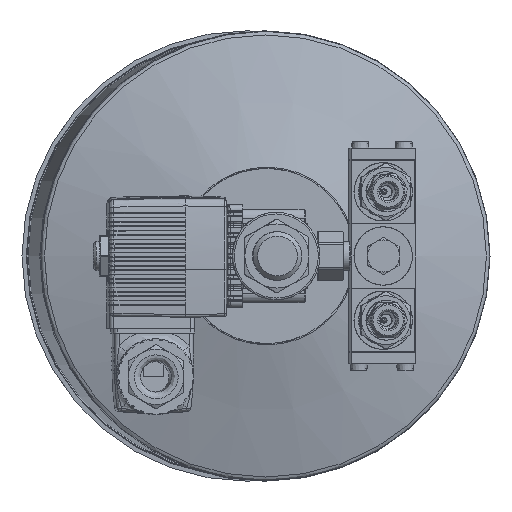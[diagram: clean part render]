
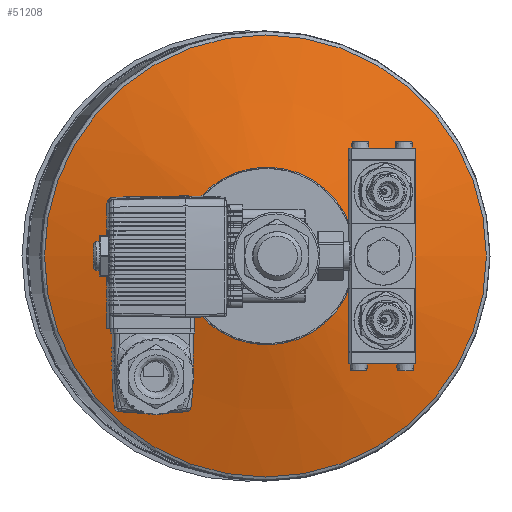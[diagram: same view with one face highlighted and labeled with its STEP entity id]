
A CAD part, left-side view. The second image highlights one B-rep face of the part: STEP entity #51208.
In plain terms, the highlighted conical face has half-angle 73.997 degrees and reference radius 75.769 mm.
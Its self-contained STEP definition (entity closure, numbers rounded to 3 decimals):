
#9752 = DIRECTION ( 'NONE',  ( 0., -1., 0. ) ) ;
#13393 = EDGE_CURVE ( 'NONE', #74937, #74937, #110760, .T. ) ;
#44645 = CARTESIAN_POINT ( 'NONE',  ( 73.466, -30.469, 0. ) ) ;
#51208 = ADVANCED_FACE ( 'NONE', ( #116686, #279716 ), #60026, .T. ) ;
#60026 = CONICAL_SURFACE ( 'NONE', #184318, 75.769, 1.291 ) ;
#74937 = VERTEX_POINT ( 'NONE', #235004 ) ;
#83923 = EDGE_LOOP ( 'NONE', ( #148655 ) ) ;
#95637 = EDGE_CURVE ( 'NONE', #225756, #225756, #235493, .T. ) ;
#110760 = CIRCLE ( 'NONE', #225421, 75.769 ) ;
#116686 = FACE_OUTER_BOUND ( 'NONE', #201864, .T. ) ;
#144501 = CARTESIAN_POINT ( 'NONE',  ( 73.466, 0., 0. ) ) ;
#148655 = ORIENTED_EDGE ( 'NONE', *, *, #95637, .T. ) ;
#158939 = AXIS2_PLACEMENT_3D ( 'NONE', #144501, #172848, #9752 ) ;
#162992 = CARTESIAN_POINT ( 'NONE',  ( 86.458, 0., 0. ) ) ;
#164531 = DIRECTION ( 'NONE',  ( 0., 0., -1. ) ) ;
#172741 = DIRECTION ( 'NONE',  ( 0., -1., 0. ) ) ;
#172848 = DIRECTION ( 'NONE',  ( 1., 0., 0. ) ) ;
#184318 = AXIS2_PLACEMENT_3D ( 'NONE', #162992, #230362, #164531 ) ;
#201864 = EDGE_LOOP ( 'NONE', ( #251720 ) ) ;
#216192 = CARTESIAN_POINT ( 'NONE',  ( 86.458, 0., 0. ) ) ;
#225421 = AXIS2_PLACEMENT_3D ( 'NONE', #216192, #235645, #172741 ) ;
#225756 = VERTEX_POINT ( 'NONE', #44645 ) ;
#230362 = DIRECTION ( 'NONE',  ( 1., 0., 0. ) ) ;
#235004 = CARTESIAN_POINT ( 'NONE',  ( 86.458, -75.769, 0. ) ) ;
#235493 = CIRCLE ( 'NONE', #158939, 30.469 ) ;
#235645 = DIRECTION ( 'NONE',  ( -1., 0., 0. ) ) ;
#251720 = ORIENTED_EDGE ( 'NONE', *, *, #13393, .T. ) ;
#279716 = FACE_BOUND ( 'NONE', #83923, .T. ) ;
